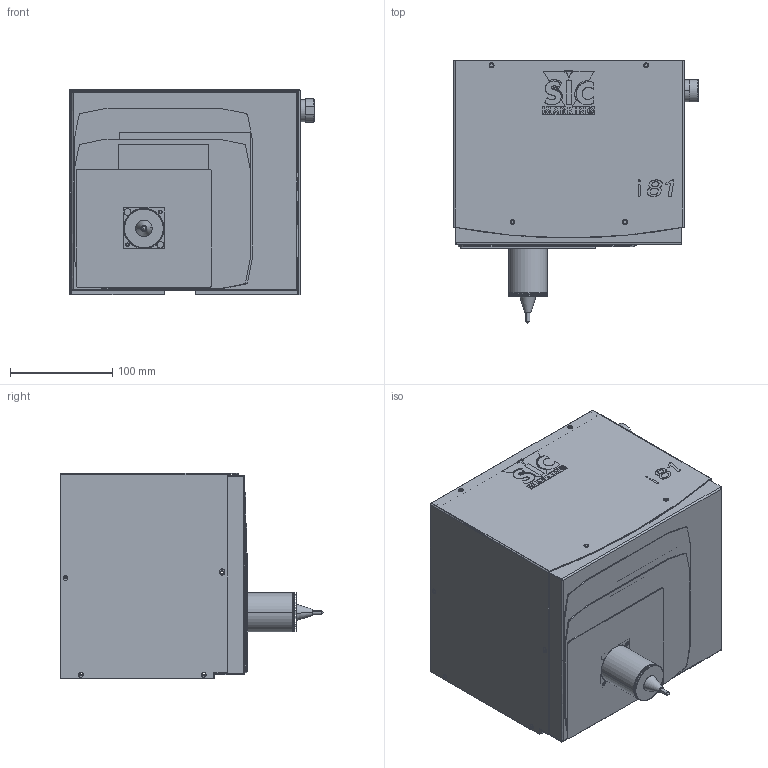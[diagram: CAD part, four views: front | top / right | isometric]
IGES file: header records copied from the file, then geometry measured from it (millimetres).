
Start section: SolidWorks IGES file using analytic representation for surfaces
Global section: file name: V:\04 - Produits\104 - i81\02 - Diffusion commerciale\i81.IGS; native system: SolidWorks 2006 by SolidWorks Corporation; preprocessor: SolidWorks 2006 by SolidWorks Corporation; author: sic39; date: 070612.153608; units: millimetre
Bounding box: 239 x 257.2 x 201.1 mm (x, y, z)
Surface area: 487496.4 mm2 (no closed solid volume)
Topology: 0 solids, 0 shells, 506 faces, 9622 edges, 9620 vertices
Faces by surface type: revolution 276, bspline 230
